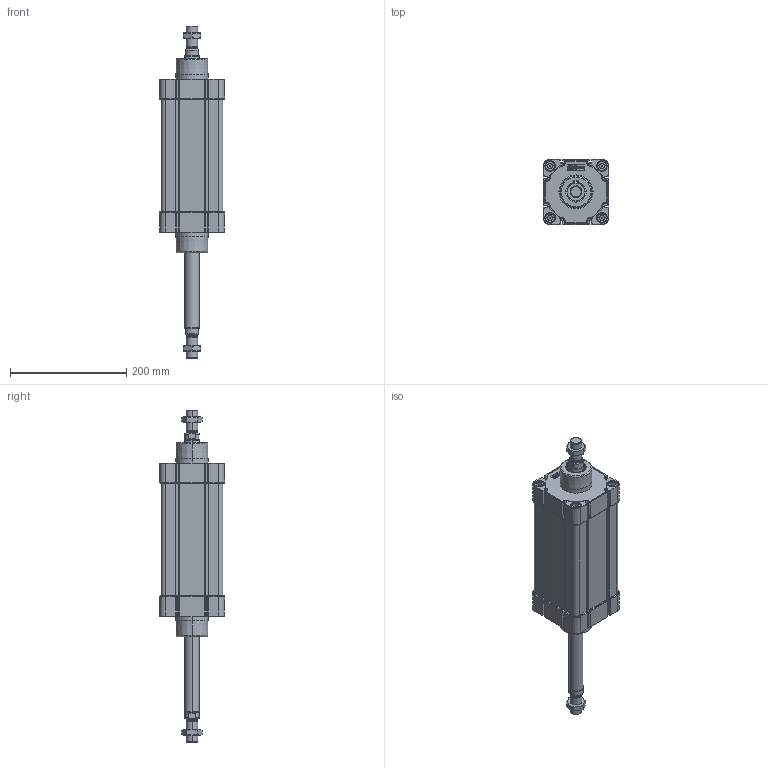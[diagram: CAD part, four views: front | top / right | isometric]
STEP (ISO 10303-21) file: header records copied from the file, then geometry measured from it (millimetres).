
FILE_DESCRIPTION (( 'STEP AP214' ), '1' );
FILE_NAME ('N11M41000125.STEP', '2021-09-28T13:41:46', ( '' ), ( '' ), 'SwSTEP 2.0', 'SolidWorks 2016', '' );
FILE_SCHEMA (( 'AUTOMOTIVE_DESIGN' ));
Length unit declared in the file: millimetre
Products named in the file (7): N11M41000125; Pistone Ø100 ISO 15552; 21.F03.0000_21.F03.0125; 21.F01.0000_21.F01.0125; 000.515.7_000.515.0125; TA Ø100 ISO 15552 WEB; 21.753.0
Assembly tree (8 placements, depth 2):
  N11M41000125
    TA Ø100 ISO 15552 WEB  x2
    Pistone Ø100 ISO 15552
    21.753.0  x2
    21.F01.0000_21.F01.0125
    000.515.7_000.515.0125
    21.F03.0000_21.F03.0125
Bounding box: 111.9 x 111.95 x 570 mm (x, y, z)
Volume: 1806543.7 mm3; surface area: 571280.5 mm2
Topology: 20 solids, 22 shells, 2239 faces, 5706 edges, 3571 vertices
Faces by surface type: plane 887, cylinder 678, cone 416, torus 112, bspline 108, sphere 38
Entity records: 50974 total; most frequent: CARTESIAN_POINT 9669, ORIENTED_EDGE 6398, DIRECTION 6376, EDGE_CURVE 3199, AXIS2_PLACEMENT_3D 2340, VERTEX_POINT 2023, VECTOR 1696, LINE 1696
